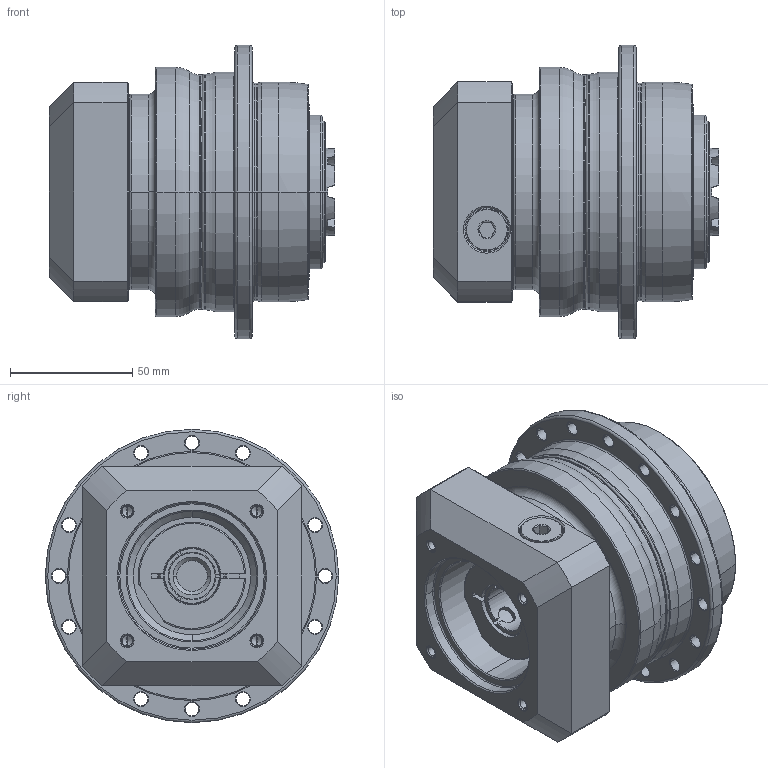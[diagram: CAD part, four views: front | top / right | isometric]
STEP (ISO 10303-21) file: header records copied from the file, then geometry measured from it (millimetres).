
FILE_DESCRIPTION((''),'2;1');
FILE_NAME('APC090_1ST_19-P0409400201_ASM','2018-10-23T',('d01226'),(''),'PRO/ENGINEER BY PARAMETRIC TECHNOLOGY CORPORATION, 2015240','PRO/ENGINEER BY PARAMETRIC TECHNOLOGY CORPORATION, 2015240','');
FILE_SCHEMA(('CONFIG_CONTROL_DESIGN'));
Length unit declared in the file: millimetre
Products named in the file (9): P0278301003; P0359330103; P1318310201; P0503400006; P0912302001; P1211300001; P0409400201; 21711412017; APC090_1ST_19-P0409400201_ASM
Assembly tree (8 placements, depth 2):
  APC090_1ST_19-P0409400201_ASM
    P0278301003
    P0359330103
    P1318310201
    P0503400006
    P0912302001
    P1211300001
    P0409400201
    21711412017
Bounding box: 116.9 x 120 x 120 mm (x, y, z)
Volume: 703935.1 mm3; surface area: 134668.2 mm2
Topology: 9 solids, 19 shells, 579 faces, 1377 edges, 839 vertices
Faces by surface type: cylinder 206, cone 174, plane 119, torus 66, bspline 14
Entity records: 21425 total; most frequent: CARTESIAN_POINT 7551, DIRECTION 3125, ORIENTED_EDGE 2684, EDGE_CURVE 1363, AXIS2_PLACEMENT_3D 1329, VERTEX_POINT 839, CIRCLE 737, EDGE_LOOP 666
